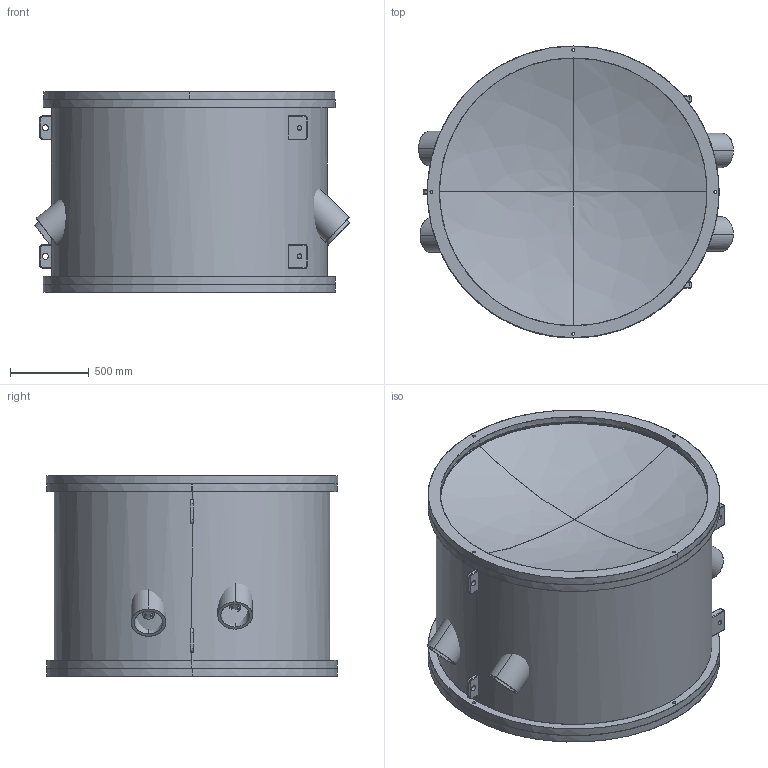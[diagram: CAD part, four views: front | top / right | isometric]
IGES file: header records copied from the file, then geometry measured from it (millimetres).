
Start section: C
Global section: file name: detector.igs; native system:  By UGS Corp.; preprocessor: XPlus GENERIC/IGES 3.0; author: Author; organization: Title; date: 20110219.171249; units: millimetre
Bounding box: 1999.23 x 1852.4 x 1273.99 mm (x, y, z)
Surface area: 32175640.2 mm2 (no closed solid volume)
Topology: 0 solids, 0 shells, 742 faces, 3252 edges, 3212 vertices
Faces by surface type: bspline 742
